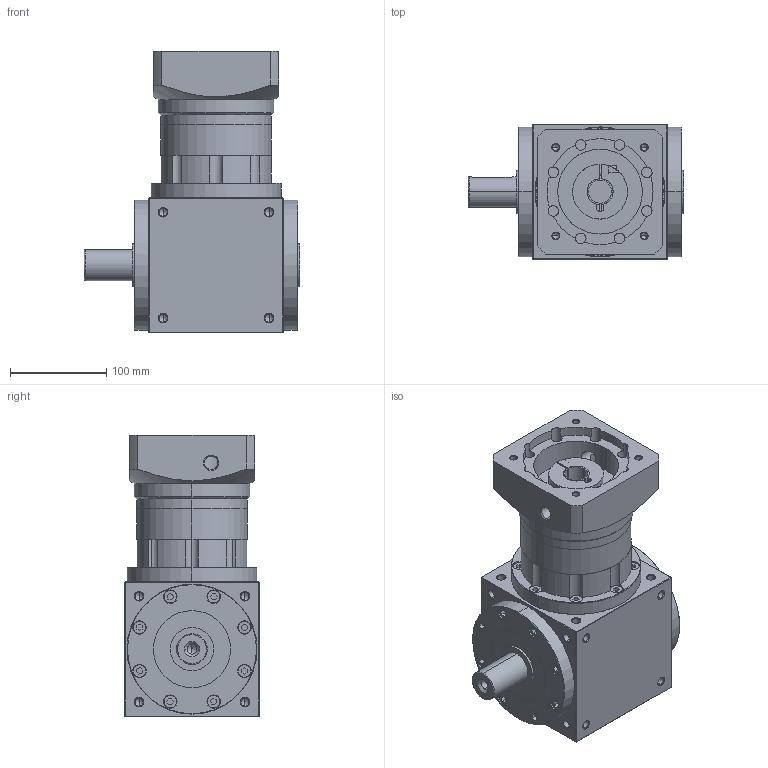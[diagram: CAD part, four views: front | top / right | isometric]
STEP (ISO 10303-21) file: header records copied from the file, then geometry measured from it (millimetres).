
FILE_DESCRIPTION (( 'STEP AP203' ), '1' );
FILE_NAME ('AT140-FL1-L2-24-110-130M8.STEP', '2026-01-03T03:00:15', ( 'Windows User' ), ( 'P R C' ), 'SwSTEP 2.0', 'SolidWorks 2016', '' );
FILE_SCHEMA (( 'CONFIG_CONTROL_DESIGN' ));
Length unit declared in the file: millimetre
Products named in the file (6): AT140-输入法兰-B-58-110-M8-130; AT140-FL1-L2-24-110-130M8; AT140-蛌倰怀堤楊擘; AT140单级齿圈; 输入胀套-27; AT140转角箱体-左-单轴输出
Assembly tree (5 placements, depth 2):
  AT140-FL1-L2-24-110-130M8
    AT140-蛌倰怀堤楊擘
    AT140单级齿圈
    输入胀套-27
    AT140转角箱体-左-单轴输出
    AT140-输入法兰-B-58-110-M8-130
Bounding box: 224 x 140 x 292 mm (x, y, z)
Volume: 3481918.8 mm3; surface area: 429480.9 mm2
Topology: 5 solids, 17 shells, 1568 faces, 3993 edges, 2519 vertices
Faces by surface type: plane 820, cylinder 360, cone 238, bspline 150
Entity records: 53986 total; most frequent: CARTESIAN_POINT 16873, ORIENTED_EDGE 7798, DIRECTION 7029, EDGE_CURVE 3899, VECTOR 2597, LINE 2597, VERTEX_POINT 2519, AXIS2_PLACEMENT_3D 2216
